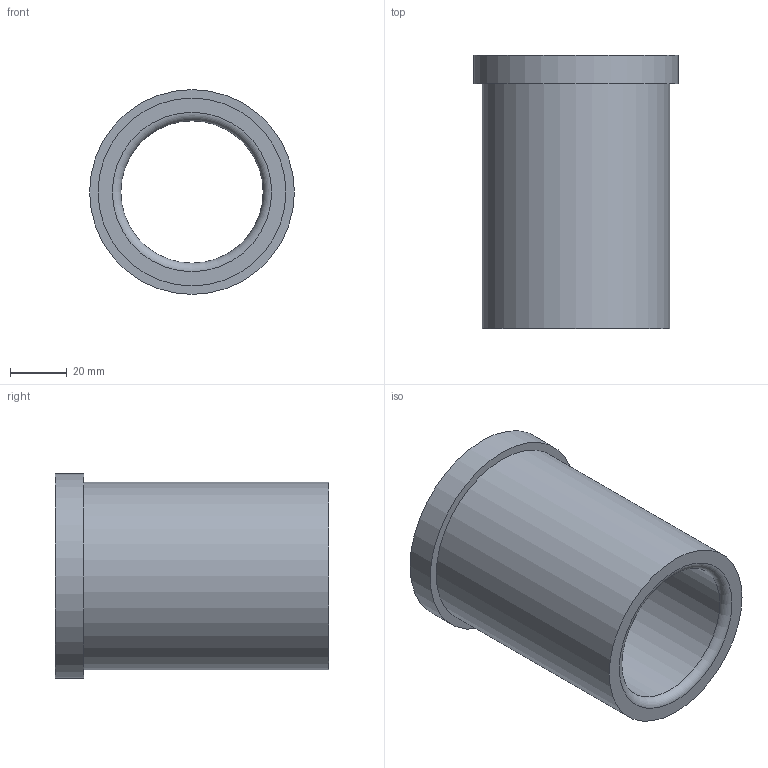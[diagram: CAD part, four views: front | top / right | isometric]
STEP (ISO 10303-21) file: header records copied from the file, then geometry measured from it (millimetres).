
FILE_DESCRIPTION(/* description */ ('STEP AP214'),/* implementation_level */ '2;1');
FILE_NAME(/* name */ '03_12_17960',/* time_stamp */ '2023-06-15T11:35:47+02:00',/* author */ ('License CC BY-ND 4.0'),/* organization */ ('CADENAS'),/* preprocessor_version */ 'ST-DEVELOPER v19.3',/* originating_system */ 'PARTsolutions',/* authorisation */ ' ');
FILE_SCHEMA (('AUTOMOTIVE_DESIGN {1 0 10303 214 3 1 1}'));
Length unit declared in the file: millimetre
Products named in the file (1): VA_Bushing_17960
Bounding box: 72 x 96 x 72 mm (x, y, z)
Volume: 144905.3 mm3; surface area: 39026.5 mm2
Topology: 1 solids, 1 shells, 10 faces, 16 edges, 10 vertices
Faces by surface type: cylinder 4, plane 4, torus 2
Full cylindrical faces by diameter (mm): 50 x1, 50.6 x1, 66 x1, 72 x1
Entity records: 302 total; most frequent: DIRECTION 42, CARTESIAN_POINT 31, AXIS2_PLACEMENT_3D 21, ORIENTED_EDGE 20, EDGE_LOOP 20, FACE_BOUND 20, EDGE_CURVE 10, VERTEX_POINT 10
